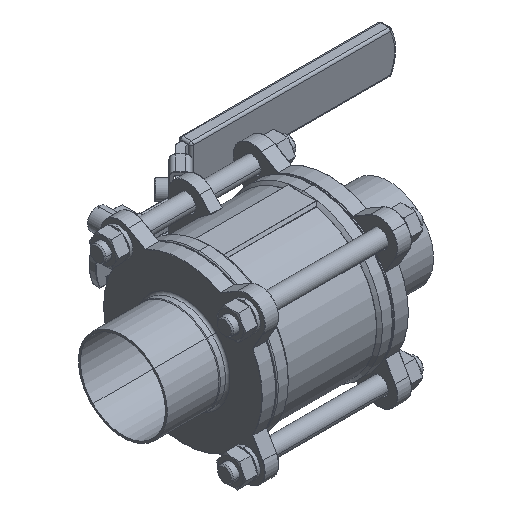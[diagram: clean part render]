
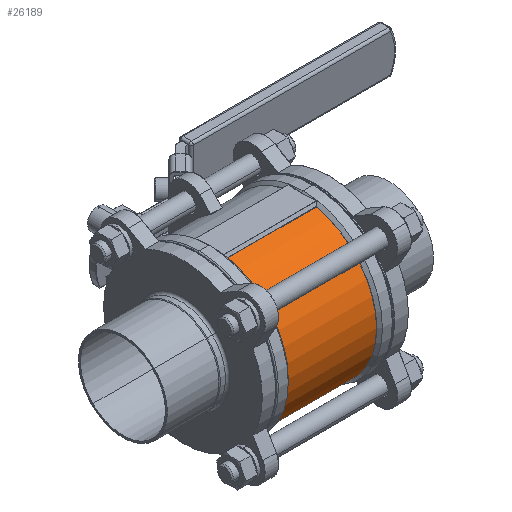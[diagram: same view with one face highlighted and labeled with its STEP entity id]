
A CAD part, isometric view. The second image highlights one B-rep face of the part: STEP entity #26189.
In plain terms, the highlighted cylindrical face has radius 65.75 mm (diameter 131.5 mm), a partial arc.
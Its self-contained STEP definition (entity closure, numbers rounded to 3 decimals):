
#1462 = CARTESIAN_POINT ( 'NONE',  ( -37.917, -13.747, -64.297 ) ) ;
#1847 = VERTEX_POINT ( 'NONE', #12757 ) ;
#1963 = VECTOR ( 'NONE', #24501, 1000. ) ;
#2380 = CARTESIAN_POINT ( 'NONE',  ( -37.917, 0., 0. ) ) ;
#3273 = EDGE_CURVE ( 'NONE', #8700, #6596, #25290, .T. ) ;
#3394 = FACE_OUTER_BOUND ( 'NONE', #15096, .T. ) ;
#6053 = EDGE_CURVE ( 'NONE', #1847, #8700, #13776, .T. ) ;
#6596 = VERTEX_POINT ( 'NONE', #1462 ) ;
#6867 = ORIENTED_EDGE ( 'NONE', *, *, #3273, .T. ) ;
#7380 = LINE ( 'NONE', #12439, #1963 ) ;
#7398 = CARTESIAN_POINT ( 'NONE',  ( 37.917, -13.747, -64.297 ) ) ;
#7978 = DIRECTION ( 'NONE',  ( -1., 0., 0. ) ) ;
#8680 = DIRECTION ( 'NONE',  ( 0., 0., -1. ) ) ;
#8700 = VERTEX_POINT ( 'NONE', #11717 ) ;
#9354 = CARTESIAN_POINT ( 'NONE',  ( 24.418, 0., 0. ) ) ;
#10853 = ORIENTED_EDGE ( 'NONE', *, *, #19498, .T. ) ;
#11590 = DIRECTION ( 'NONE',  ( 0., 0., -1. ) ) ;
#11674 = DIRECTION ( 'NONE',  ( 1., 0., 0. ) ) ;
#11717 = CARTESIAN_POINT ( 'NONE',  ( -37.917, -13.747, 64.297 ) ) ;
#12146 = VECTOR ( 'NONE', #7978, 1000. ) ;
#12439 = CARTESIAN_POINT ( 'NONE',  ( 24.418, -13.747, -64.297 ) ) ;
#12757 = CARTESIAN_POINT ( 'NONE',  ( 37.917, -13.747, 64.297 ) ) ;
#13025 = AXIS2_PLACEMENT_3D ( 'NONE', #2380, #14511, #8680 ) ;
#13776 = LINE ( 'NONE', #15943, #12146 ) ;
#14511 = DIRECTION ( 'NONE',  ( 1., 0., 0. ) ) ;
#15096 = EDGE_LOOP ( 'NONE', ( #25635, #6867, #10853, #21099 ) ) ;
#15413 = DIRECTION ( 'NONE',  ( -1., 0., 0. ) ) ;
#15943 = CARTESIAN_POINT ( 'NONE',  ( 24.418, -13.747, 64.297 ) ) ;
#16710 = EDGE_CURVE ( 'NONE', #24269, #1847, #18480, .T. ) ;
#17752 = CYLINDRICAL_SURFACE ( 'NONE', #23602, 65.75 ) ;
#18480 = CIRCLE ( 'NONE', #25659, 65.75 ) ;
#19498 = EDGE_CURVE ( 'NONE', #6596, #24269, #7380, .T. ) ;
#21099 = ORIENTED_EDGE ( 'NONE', *, *, #16710, .T. ) ;
#21260 = CARTESIAN_POINT ( 'NONE',  ( 37.917, 0., 0. ) ) ;
#21532 = DIRECTION ( 'NONE',  ( 0., 0., -1. ) ) ;
#23602 = AXIS2_PLACEMENT_3D ( 'NONE', #9354, #11674, #11590 ) ;
#24269 = VERTEX_POINT ( 'NONE', #7398 ) ;
#24501 = DIRECTION ( 'NONE',  ( 1., 0., 0. ) ) ;
#25290 = CIRCLE ( 'NONE', #13025, 65.75 ) ;
#25635 = ORIENTED_EDGE ( 'NONE', *, *, #6053, .T. ) ;
#25659 = AXIS2_PLACEMENT_3D ( 'NONE', #21260, #15413, #21532 ) ;
#26189 = ADVANCED_FACE ( 'NONE', ( #3394 ), #17752, .T. ) ;
